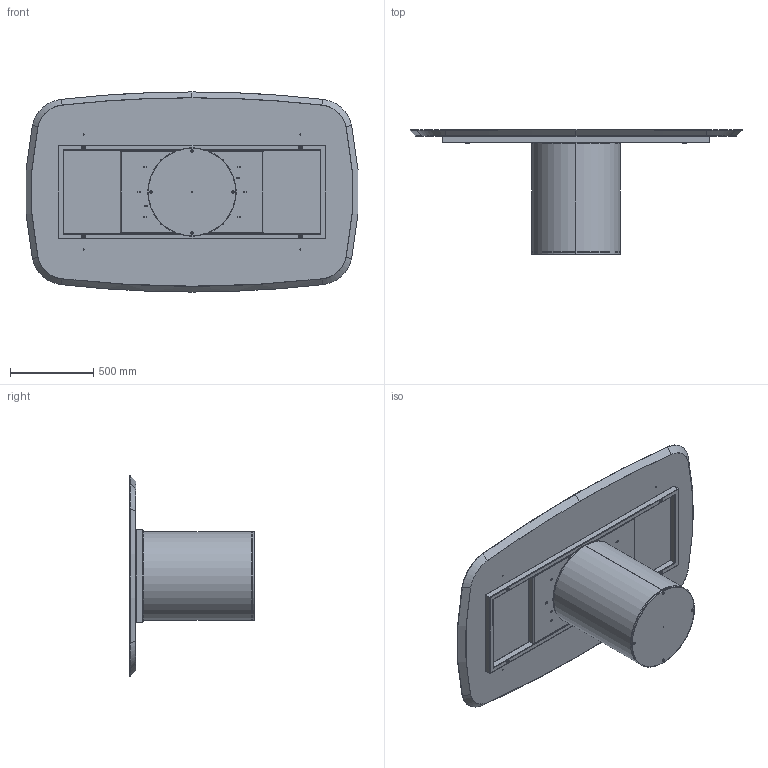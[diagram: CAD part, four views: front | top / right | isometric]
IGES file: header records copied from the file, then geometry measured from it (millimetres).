
Start section: SolidWorks IGES file using analytic representation for surfaces
Global section: file name: Y:\eforma\TECNICO\SOLIDWORKS\E-FORMA\1-TAVOLI\CILINDRO\02 parts\CI41W.IGS; native system: SolidWorks 2022; preprocessor: SolidWorks 2022; author: eforma.tech; date: 240808.092543; units: millimetre
Bounding box: 1990.53 x 748 x 1200 mm (x, y, z)
Volume: 90132988.8 mm3; surface area: 9684119.5 mm2
Topology: 20 solids, 20 shells, 759 faces, 1790 edges, 1029 vertices
Faces by surface type: revolution 467, plane 292
